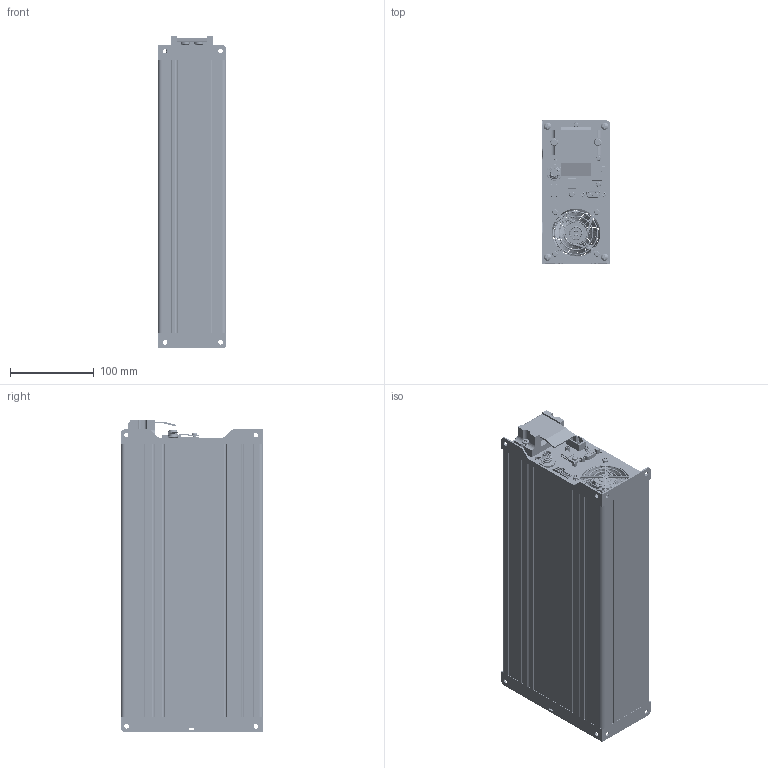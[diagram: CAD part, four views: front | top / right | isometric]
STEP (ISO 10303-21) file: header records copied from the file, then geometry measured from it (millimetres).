
FILE_DESCRIPTION(/* description */ ('','CAx-IF Rec.Pracs.---Representation and Presentation of Product Manufacturing Information (PMI)---4.0---2014-10-13'),/* implementation_level */ '2;1');
FILE_NAME(/* name */ 'G:\06_WPT_RX\[ 3D_고객용 ]\2022.01.19 [고객용]\RX Controller.stp',/* time_stamp */ '2022-01-19T13:52:42+09:00',/* author */ ('jjang'),/* organization */ (''),/* preprocessor_version */ 'ST-DEVELOPER v18.1',/* originating_system */ 'Autodesk Inventor 2021',/* authorisation */ '');
FILE_SCHEMA (('AP242_MANAGED_MODEL_BASED_3D_ENGINEERING_MIM_LF { 1 0 10303 442 1 1 4 }'));
Products named in the file (1): $WPT RX Charger_2021.04.19_Shrinkwrap_1
Bounding box: 82 x 170.1 x 372.3 mm (x, y, z)
Volume: 782146.2 mm3; surface area: 538297.7 mm2
Topology: 23 solids, 23 shells, 6783 faces, 18854 edges, 12494 vertices
Faces by surface type: plane 3654, bspline 1343, cylinder 1342, torus 288, cone 112, sphere 44
Full cylindrical faces by diameter (mm): 0.457 x1, 0.6 x17, 0.8 x8, 0.9 x4, 1 x73, 1.1 x2, 1.2 x18, 1.3 x8, 1.4 x68, 1.5 x8, 1.6 x9, 2.5 x27, 2.8 x3, 2.957 x6, 2.987 x12, 3 x10, 3.05 x2, 3.2 x4, 3.3 x5, 3.5 x10, 3.6 x8, 3.8 x8, 4 x27, 4.2 x2, 4.3 x8, 4.5 x10, 4.6 x2, 4.9 x8, 5 x21, 5.4 x3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
Entity records: 276078 total; most frequent: CARTESIAN_POINT 100418, ORIENTED_EDGE 37648, DIRECTION 32267, EDGE_CURVE 18824, VERTEX_POINT 12494, LINE 11121, VECTOR 11121, AXIS2_PLACEMENT_3D 10573
